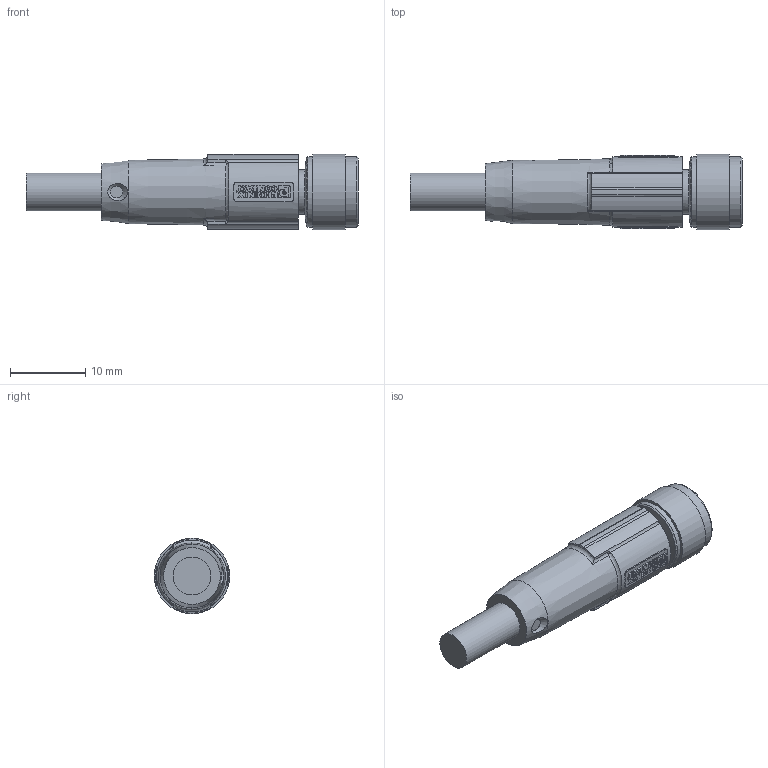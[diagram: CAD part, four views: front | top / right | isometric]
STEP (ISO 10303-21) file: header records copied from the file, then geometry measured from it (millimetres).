
FILE_DESCRIPTION( ( 'Unknown' ), '1' );
FILE_NAME( '//baumernet.org/ch01apps/SolidEdge/Models/Dokumentationen/_Standardteile/Kabeldosen/Phoenix/ES 32/Vereinfachte Modelle/Neutralformate/ESG 32SHxxxxG.stp', 'Unknown', ( 'Unknown' ), ( 'Unknown' ), 'PSStep 10.0', 'Unknown', ' ' );
FILE_SCHEMA( ( 'AUTOMOTIVE_DESIGN { 1 0 10303 214 1 1 1 1 }' ) );
Length unit declared in the file: millimetre
Products named in the file (1): 1521711
Bounding box: 44 x 10 x 10 mm (x, y, z)
Volume: 2268.8 mm3; surface area: 1643.1 mm2
Topology: 1 solids, 1 shells, 412 faces, 1057 edges, 698 vertices
Faces by surface type: plane 287, cylinder 59, extrusion 48, torus 9, cone 7, sphere 2
Full cylindrical faces by diameter (mm): 1.2 x3, 5 x1, 5.68 x1, 5.9 x1, 6.9 x1, 7.1 x1, 8 x1, 9.3 x2, 10 x1
Entity records: 17597 total; most frequent: CARTESIAN_POINT 4547, ORIENTED_EDGE 2046, DIRECTION 1799, EDGE_CURVE 1023, VECTOR 789, LINE 741, VERTEX_POINT 693, AXIS2_PLACEMENT_3D 505
